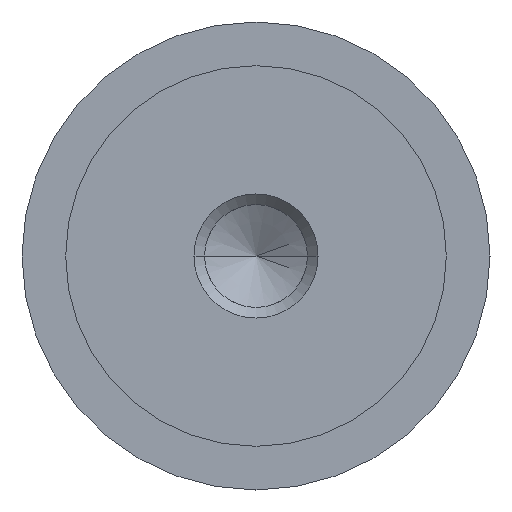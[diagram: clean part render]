
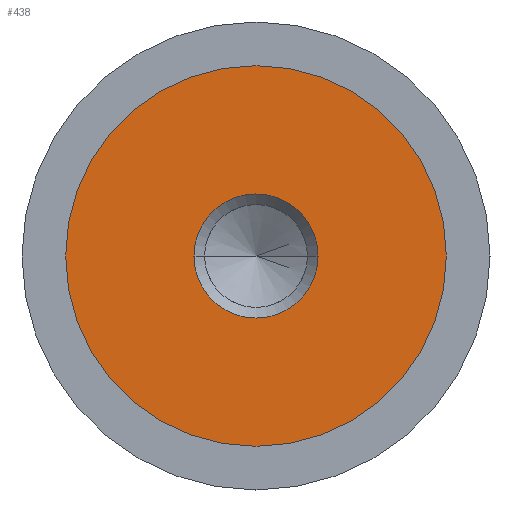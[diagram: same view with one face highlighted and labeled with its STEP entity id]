
A CAD part, left-side view. The second image highlights one B-rep face of the part: STEP entity #438.
In plain terms, the highlighted planar face has unit normal (-1, 0, 0).
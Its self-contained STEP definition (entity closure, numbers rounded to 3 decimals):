
#21 = AXIS2_PLACEMENT_3D ( 'NONE', #185, #427, #122 ) ;
#56 = DIRECTION ( 'NONE',  ( 0., 0., -1. ) ) ;
#61 = EDGE_CURVE ( 'NONE', #684, #686, #192, .T. ) ;
#62 = CARTESIAN_POINT ( 'NONE',  ( -12.49, 0., 6.1 ) ) ;
#64 = CARTESIAN_POINT ( 'NONE',  ( -12.49, 6.1, 0. ) ) ;
#91 = AXIS2_PLACEMENT_3D ( 'NONE', #64, #251, #488 ) ;
#122 = DIRECTION ( 'NONE',  ( 0., 0., -1. ) ) ;
#128 = CARTESIAN_POINT ( 'NONE',  ( -12.49, 0., -6.1 ) ) ;
#146 = VERTEX_POINT ( 'NONE', #128 ) ;
#158 = AXIS2_PLACEMENT_3D ( 'NONE', #478, #290, #180 ) ;
#180 = DIRECTION ( 'NONE',  ( 0., 0., 1. ) ) ;
#183 = ORIENTED_EDGE ( 'NONE', *, *, #403, .T. ) ;
#185 = CARTESIAN_POINT ( 'NONE',  ( -12.49, 0., 0. ) ) ;
#192 = CIRCLE ( 'NONE', #21, 1.99 ) ;
#196 = CIRCLE ( 'NONE', #212, 6.1 ) ;
#200 = CARTESIAN_POINT ( 'NONE',  ( -12.49, 0., 0. ) ) ;
#212 = AXIS2_PLACEMENT_3D ( 'NONE', #563, #266, #335 ) ;
#220 = EDGE_CURVE ( 'NONE', #505, #146, #196, .T. ) ;
#230 = AXIS2_PLACEMENT_3D ( 'NONE', #200, #658, #56 ) ;
#251 = DIRECTION ( 'NONE',  ( 1., 0., 0. ) ) ;
#266 = DIRECTION ( 'NONE',  ( -1., 0., 0. ) ) ;
#290 = DIRECTION ( 'NONE',  ( -1., 0., 0. ) ) ;
#335 = DIRECTION ( 'NONE',  ( 0., 0., 1. ) ) ;
#343 = EDGE_LOOP ( 'NONE', ( #532, #183 ) ) ;
#403 = EDGE_CURVE ( 'NONE', #146, #505, #661, .T. ) ;
#427 = DIRECTION ( 'NONE',  ( 1., 0., 0. ) ) ;
#438 = ADVANCED_FACE ( 'NONE', ( #667, #485 ), #663, .F. ) ;
#439 = CARTESIAN_POINT ( 'NONE',  ( -12.49, -1.99, 0. ) ) ;
#478 = CARTESIAN_POINT ( 'NONE',  ( -12.49, 0., 0. ) ) ;
#485 = FACE_OUTER_BOUND ( 'NONE', #343, .T. ) ;
#488 = DIRECTION ( 'NONE',  ( 0., 0., -1. ) ) ;
#501 = ORIENTED_EDGE ( 'NONE', *, *, #61, .T. ) ;
#505 = VERTEX_POINT ( 'NONE', #62 ) ;
#532 = ORIENTED_EDGE ( 'NONE', *, *, #220, .T. ) ;
#548 = EDGE_CURVE ( 'NONE', #686, #684, #750, .T. ) ;
#563 = CARTESIAN_POINT ( 'NONE',  ( -12.49, 0., 0. ) ) ;
#573 = CARTESIAN_POINT ( 'NONE',  ( -12.49, 1.99, 0. ) ) ;
#589 = ORIENTED_EDGE ( 'NONE', *, *, #548, .T. ) ;
#658 = DIRECTION ( 'NONE',  ( 1., 0., 0. ) ) ;
#661 = CIRCLE ( 'NONE', #158, 6.1 ) ;
#663 = PLANE ( 'NONE',  #91 ) ;
#667 = FACE_BOUND ( 'NONE', #783, .T. ) ;
#684 = VERTEX_POINT ( 'NONE', #573 ) ;
#686 = VERTEX_POINT ( 'NONE', #439 ) ;
#750 = CIRCLE ( 'NONE', #230, 1.99 ) ;
#783 = EDGE_LOOP ( 'NONE', ( #589, #501 ) ) ;
